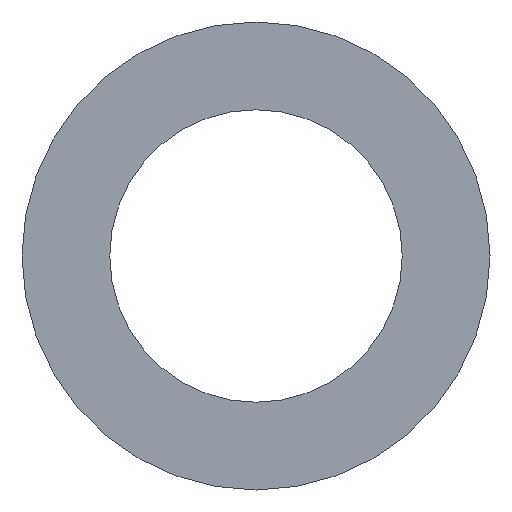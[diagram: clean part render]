
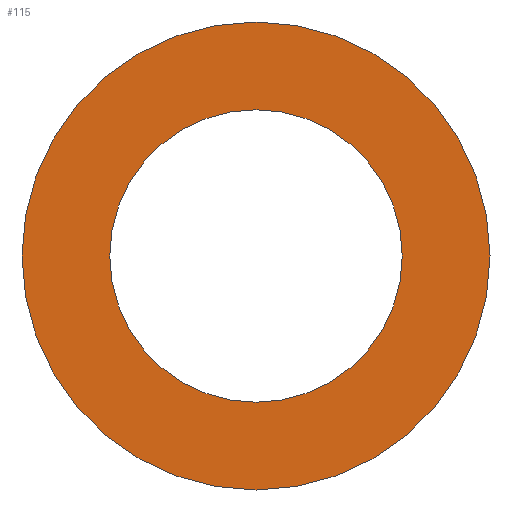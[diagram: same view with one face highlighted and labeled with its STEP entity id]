
A CAD part, left-side view. The second image highlights one B-rep face of the part: STEP entity #115.
In plain terms, the highlighted planar face has unit normal (-1, 0, 0).
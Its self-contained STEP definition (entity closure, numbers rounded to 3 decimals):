
#40=CARTESIAN_POINT('Vertex',(0.,8.,0.)) ;
#45=CARTESIAN_POINT('Axis2P3D Location',(0.,0.,0.)) ;
#49=CARTESIAN_POINT('Vertex',(0.,-8.,0.)) ;
#71=CARTESIAN_POINT('Axis2P3D Location',(0.,0.,0.)) ;
#88=CARTESIAN_POINT('Axis2P3D Location',(0.,0.,0.)) ;
#97=CARTESIAN_POINT('Axis2P3D Location',(0.,0.,0.)) ;
#101=CARTESIAN_POINT('Vertex',(0.,5.,0.)) ;
#103=CARTESIAN_POINT('Vertex',(0.,-5.,0.)) ;
#106=CARTESIAN_POINT('Axis2P3D Location',(0.,0.,0.)) ;
#46=DIRECTION('Axis2P3D Direction',(1.,0.,0.)) ;
#72=DIRECTION('Axis2P3D Direction',(1.,0.,0.)) ;
#89=DIRECTION('Axis2P3D Direction',(1.,0.,0.)) ;
#90=DIRECTION('Axis2P3D XDirection',(0.,1.,0.)) ;
#98=DIRECTION('Axis2P3D Direction',(1.,0.,0.)) ;
#107=DIRECTION('Axis2P3D Direction',(1.,0.,0.)) ;
#47=AXIS2_PLACEMENT_3D('Circle Axis2P3D',#45,#46,$) ;
#73=AXIS2_PLACEMENT_3D('Circle Axis2P3D',#71,#72,$) ;
#91=AXIS2_PLACEMENT_3D('Plane Axis2P3D',#88,#89,#90) ;
#99=AXIS2_PLACEMENT_3D('Circle Axis2P3D',#97,#98,$) ;
#108=AXIS2_PLACEMENT_3D('Circle Axis2P3D',#106,#107,$) ;
#48=CIRCLE('generated circle',#47,8.) ;
#74=CIRCLE('generated circle',#73,8.) ;
#100=CIRCLE('generated circle',#99,5.) ;
#109=CIRCLE('generated circle',#108,5.) ;
#92=PLANE('',#91) ;
#114=FACE_BOUND('',#111,.T.) ;
#51=EDGE_CURVE('',#41,#50,#48,.T.) ;
#75=EDGE_CURVE('',#50,#41,#74,.T.) ;
#105=EDGE_CURVE('',#102,#104,#100,.T.) ;
#110=EDGE_CURVE('',#104,#102,#109,.T.) ;
#94=ORIENTED_EDGE('',*,*,#75,.F.) ;
#95=ORIENTED_EDGE('',*,*,#51,.F.) ;
#112=ORIENTED_EDGE('',*,*,#105,.T.) ;
#113=ORIENTED_EDGE('',*,*,#110,.T.) ;
#93=EDGE_LOOP('',(#94,#95)) ;
#111=EDGE_LOOP('',(#112,#113)) ;
#41=VERTEX_POINT('',#40) ;
#50=VERTEX_POINT('',#49) ;
#102=VERTEX_POINT('',#101) ;
#104=VERTEX_POINT('',#103) ;
#115=ADVANCED_FACE('Body.2',(#96,#114),#92,.F.) ;
#96=FACE_OUTER_BOUND('',#93,.T.) ;
